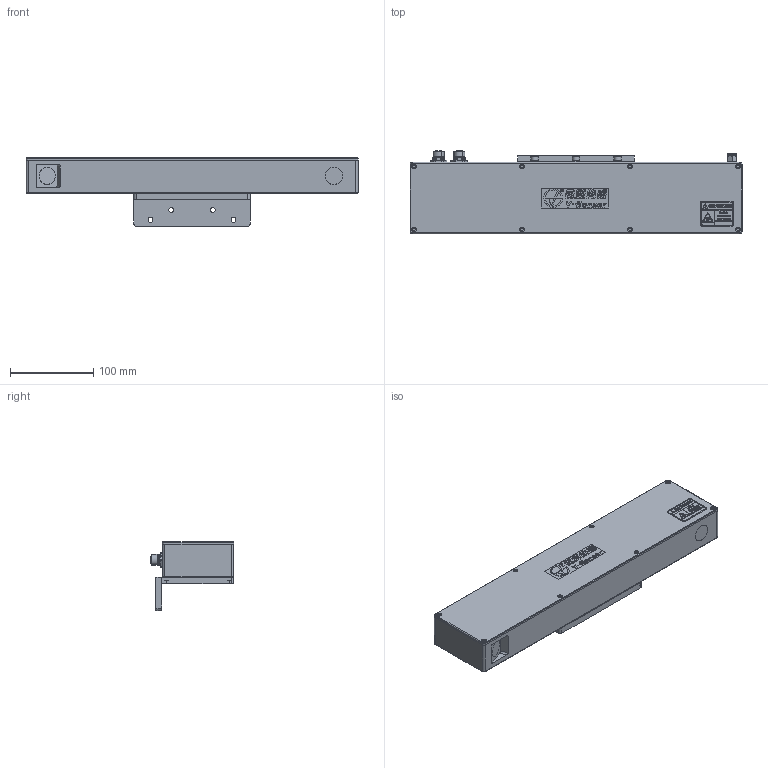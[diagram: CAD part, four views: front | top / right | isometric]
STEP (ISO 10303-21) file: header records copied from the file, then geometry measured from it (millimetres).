
FILE_DESCRIPTION((''),'2;1');
FILE_NAME('PSN3000_ASM','2024-11-14T',('qqwan'),(''),'PRO/ENGINEER BY PARAMETRIC TECHNOLOGY CORPORATION, 2010280','PRO/ENGINEER BY PARAMETRIC TECHNOLOGY CORPORATION, 2010280','');
FILE_SCHEMA(('CONFIG_CONTROL_DESIGN'));
Products named in the file (21): PRT0002_99; PRT0108_4; M12_8PIN_3; PRT000555_12_13_3; PRT0010_3_3_3; ASM0003_ASM_5_ASM_2_ASM_1_ASM_ASM; ASM0003_ASM_5_ASM_ASM_1_ASM_ASM; PRT0109_12; M3__4; ZHUYIJIGUANG_4; WSCG-LOGO-20230511_3; PC-4_2; DGZ1_4; M2_5__2; PRT0001_9; PRT0003_15; M5_1; ASM0001_ASM_189_ASM_ASM; PSN_ASM_ASM; PRT0001; PSN3000_ASM
Assembly tree (34 placements, depth 6):
  PSN3000_ASM
    PSN_ASM_ASM
      ASM0001_ASM_189_ASM_ASM
        PRT0002_99
        PRT0108_4  x2
        M12_8PIN_3
        ASM0003_ASM_5_ASM_ASM_1_ASM_ASM
          ASM0003_ASM_5_ASM_2_ASM_1_ASM_ASM
            PRT000555_12_13_3
            PRT0010_3_3_3
        PRT0109_12
        M3__4  x8
        ZHUYIJIGUANG_4
        WSCG-LOGO-20230511_3
        PC-4_2
        DGZ1_4  x2
        M2_5__2
        PRT0001_9
        PRT0003_15
        M5_1  x3
    PRT0001  x4
Bounding box: 400 x 100.7 x 83.23 mm (x, y, z)
Surface area: 371558.1 mm2 (no closed solid volume)
Topology: 0 solids, 61 shells, 4317 faces, 11985 edges, 8036 vertices
Faces by surface type: plane 2832, cylinder 808, extrusion 420, cone 223, torus 30, sphere 4
Entity records: 136168 total; most frequent: CARTESIAN_POINT 29515, ORIENTED_EDGE 22852, DIRECTION 20273, EDGE_CURVE 11488, VECTOR 8817, LINE 8397, VERTEX_POINT 7747, AXIS2_PLACEMENT_3D 5728
